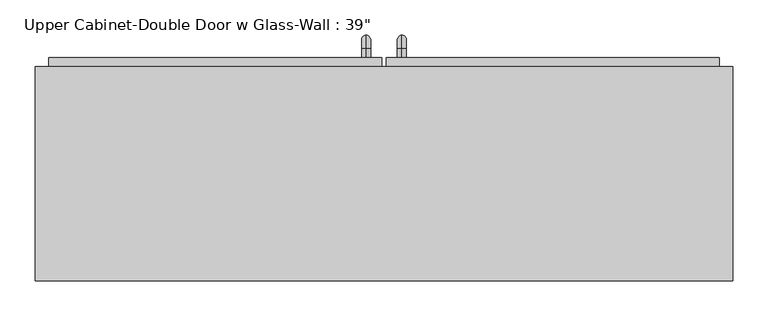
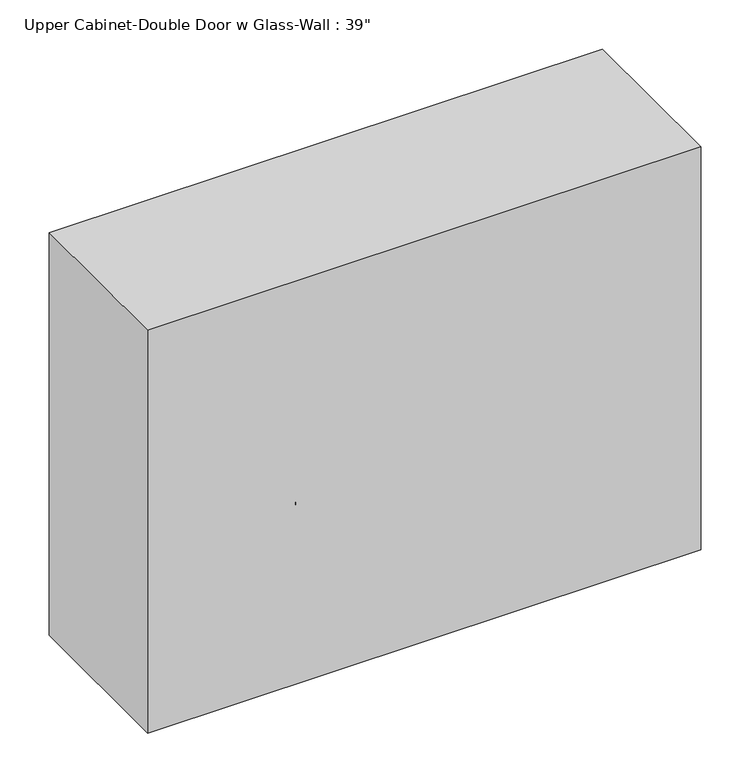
"""IFC4 building model written with IfcOpenShell, lengths in millimetres: furniture geometry."""

from ifc_helpers import new_model, si_unit, point, frame, origin, place, context, project, spatial, polyline, circle_curve, ellipse_curve, trimmed, outline, extrude, faceted_brep, source, transform, mapped, element, save
from ifc_brep_helpers import plane_surface, cylinder_surface, revolved_surface, advanced_brep


def furniture_249aa2ce(model_context):
    return source(origin(), model_context, "Body", "SolidModel", [
        faceted_brep([(-465.5288372, 76.2, 2133.6), (-465.5288372, 76.2, 1371.6), (525.0711628, 76.2, 1371.6), (525.0711628, 76.2, 2133.6), (-465.5288372, 381.0, 2133.6), (525.0711628, 381.0, 2133.6), (525.0711628, 381.0, 1371.6), (-465.5288372, 381.0, 1371.6), (-446.4788372, 381.0, 2114.55), (-446.4788372, 381.0, 1390.65), (506.0211628, 381.0, 1390.65), (506.0211628, 381.0, 2114.55), (506.0211628, 95.25, 2114.55), (-446.4788372, 95.25, 2114.55), (506.0211628, 95.25, 1390.65), (-446.4788372, 95.25, 1390.65)], [[[0, 1, 2, 3]], [[4, 5, 6, 7], [8, 9, 10, 11]], [[1, 0, 4, 7]], [[2, 1, 7, 6]], [[3, 2, 6, 5]], [[0, 3, 5, 4]], [[8, 11, 12, 13]], [[11, 10, 14, 12]], [[10, 9, 15, 14]], [[9, 8, 13, 15]], [[13, 12, 14, 15]]]),
        advanced_brep(
        [(55.1711628, 393.7, 1517.65), (55.1711628, 393.7, 1530.35), (55.1711628, 406.4, 1517.65), (55.1711628, 406.4, 1530.35), (55.1711628, 425.45, 1511.3), (55.1711628, 412.75, 1511.3), (55.1711628, 412.75, 1435.1), (55.1711628, 425.45, 1435.1), (55.1711628, 406.4, 1416.05), (55.1711628, 406.4, 1428.75), (55.1711628, 393.7, 1428.75), (55.1711628, 393.7, 1416.05)],
        [
            (0, 1, circle_curve(frame((55.1711628, 393.7, 1524.0), z_axis=(0.0, -1.0, 0.0), x_axis=(0.0, 0.0, -1.0)), 6.35)),
            (1, 0, circle_curve(frame((55.1711628, 393.7, 1524.0), z_axis=(0.0, -1.0, 0.0), x_axis=(0.0, 0.0, -1.0)), 6.35)),
            (0, 2),
            (2, 3, circle_curve(frame((55.1711628, 406.4, 1524.0), z_axis=(0.0, -1.0, 0.0), x_axis=(0.0, 0.0, -1.0)), 6.35)),
            (3, 1),
            (3, 2, circle_curve(frame((55.1711628, 406.4, 1524.0), z_axis=(0.0, -1.0, 0.0), x_axis=(0.0, 0.0, -1.0)), 6.35)),
            (4, 3, circle_curve(frame((55.1711628, 406.4, 1511.3), z_axis=(1.0, 0.0, 0.0), x_axis=(0.0, 0.0, 1.0)), 19.05)),
            (2, 5, circle_curve(frame((55.1711628, 406.4, 1511.3), z_axis=(-1.0, 0.0, 0.0), x_axis=(0.0, 0.0, 1.0)), 6.35)),
            (5, 4, circle_curve(frame((55.1711628, 419.1, 1511.3), z_axis=(0.0, 0.0, 1.0), x_axis=(0.0, -1.0, 0.0)), 6.35)),
            (4, 5, circle_curve(frame((55.1711628, 419.1, 1511.3), z_axis=(0.0, 0.0, 1.0), x_axis=(0.0, -1.0, 0.0)), 6.35)),
            (5, 6),
            (6, 7, circle_curve(frame((55.1711628, 419.1, 1435.1), z_axis=(0.0, 0.0, 1.0), x_axis=(0.0, -1.0, 0.0)), 6.35)),
            (7, 4),
            (7, 6, circle_curve(frame((55.1711628, 419.1, 1435.1), z_axis=(0.0, 0.0, 1.0), x_axis=(0.0, -1.0, 0.0)), 6.35)),
            (8, 7, circle_curve(frame((55.1711628, 406.4, 1435.1), z_axis=(1.0, 0.0, 0.0), x_axis=(0.0, 1.0, 0.0)), 19.05)),
            (6, 9, circle_curve(frame((55.1711628, 406.4, 1435.1), z_axis=(-1.0, 0.0, 0.0), x_axis=(0.0, 1.0, 0.0)), 6.35)),
            (9, 8, circle_curve(frame((55.1711628, 406.4, 1422.4), z_axis=(0.0, 1.0, 0.0), x_axis=(0.0, 0.0, 1.0)), 6.35)),
            (8, 9, circle_curve(frame((55.1711628, 406.4, 1422.4), z_axis=(0.0, 1.0, 0.0), x_axis=(0.0, 0.0, 1.0)), 6.35)),
            (10, 11, circle_curve(frame((55.1711628, 393.7, 1422.4), z_axis=(0.0, -1.0, 0.0), x_axis=(0.0, 0.0, 1.0)), 6.35)),
            (11, 10, circle_curve(frame((55.1711628, 393.7, 1422.4), z_axis=(0.0, -1.0, 0.0), x_axis=(0.0, 0.0, 1.0)), 6.35)),
            (9, 10),
            (11, 8),
        ],
        [
            plane_surface(frame((48.8211628, 393.7, 1524.0), z_axis=(0.0, -1.0, 0.0), x_axis=(0.0, 0.0, 1.0))),
            cylinder_surface(frame((55.1711628, 393.7, 1524.0), z_axis=(0.0, -1.0, 0.0), x_axis=(0.0, 0.0, -1.0)), 6.35),
            revolved_surface(trimmed(ellipse_curve(frame((55.1711628, 406.4, 1524.0), z_axis=(0.0, -1.0, 0.0), x_axis=(0.0, 0.0, -1.0)), 6.35, 6.35), [point((55.1711628, 406.4, 1517.65))], [point((55.1711628, 406.4, 1530.35))], True, "CARTESIAN"), (55.1711628, 406.4, 1511.3), (-1.0, 0.0, 0.0)),
            revolved_surface(trimmed(ellipse_curve(frame((55.1711628, 406.4, 1524.0), z_axis=(0.0, -1.0, 0.0), x_axis=(0.0, 0.0, -1.0)), 6.35, 6.35), [point((55.1711628, 406.4, 1530.35))], [point((55.1711628, 406.4, 1517.65))], True, "CARTESIAN"), (55.1711628, 406.4, 1511.3), (-1.0, 0.0, 0.0)),
            cylinder_surface(frame((55.1711628, 419.1, 1511.3), z_axis=(0.0, 0.0, 1.0), x_axis=(0.0, -1.0, 0.0)), 6.35),
            revolved_surface(trimmed(ellipse_curve(frame((55.1711628, 419.1, 1435.1), z_axis=(0.0, 0.0, 1.0), x_axis=(0.0, -1.0, 0.0)), 6.35, 6.35), [point((55.1711628, 412.75, 1435.1))], [point((55.1711628, 425.45, 1435.1))], True, "CARTESIAN"), (55.1711628, 406.4, 1435.1), (-1.0, 0.0, 0.0)),
            revolved_surface(trimmed(ellipse_curve(frame((55.1711628, 419.1, 1435.1), z_axis=(0.0, 0.0, 1.0), x_axis=(0.0, -1.0, 0.0)), 6.35, 6.35), [point((55.1711628, 425.45, 1435.1))], [point((55.1711628, 412.75, 1435.1))], True, "CARTESIAN"), (55.1711628, 406.4, 1435.1), (-1.0, 0.0, 0.0)),
            plane_surface(frame((48.8211628, 393.7, 1422.4), z_axis=(0.0, -1.0, 0.0), x_axis=(0.0, 0.0, -1.0))),
            cylinder_surface(frame((55.1711628, 406.4, 1422.4), z_axis=(0.0, 1.0, 0.0), x_axis=(0.0, 0.0, 1.0)), 6.35),
        ],
        [
            (0, [[1, 2]]),
            (1, [[-1, 3, 4, 5]]),
            (1, [[-2, -5, 6, -3]]),
            (2, [[7, -4, 8, 9]]),
            (3, [[-8, -6, -7, 10]]),
            (4, [[-9, 11, 12, 13]]),
            (4, [[-10, -13, 14, -11]]),
            (5, [[15, -12, 16, 17]]),
            (6, [[-16, -14, -15, 18]]),
            (7, [[19, 20]]),
            (8, [[-17, 21, -20, 22]]),
            (8, [[-18, -22, -19, -21]]),
        ],
    ),
        advanced_brep(
        [(4.3711628, 393.7, 1517.65), (4.3711628, 393.7, 1530.35), (4.3711628, 406.4, 1517.65), (4.3711628, 406.4, 1530.35), (4.3711628, 425.45, 1511.3), (4.3711628, 412.75, 1511.3), (4.3711628, 412.75, 1435.1), (4.3711628, 425.45, 1435.1), (4.3711628, 406.4, 1416.05), (4.3711628, 406.4, 1428.75), (4.3711628, 393.7, 1428.75), (4.3711628, 393.7, 1416.05)],
        [
            (0, 1, circle_curve(frame((4.3711628, 393.7, 1524.0), z_axis=(0.0, -1.0, 0.0), x_axis=(0.0, 0.0, 1.0)), 6.35)),
            (1, 0, circle_curve(frame((4.3711628, 393.7, 1524.0), z_axis=(0.0, -1.0, 0.0), x_axis=(0.0, 0.0, 1.0)), 6.35)),
            (0, 2),
            (2, 3, circle_curve(frame((4.3711628, 406.4, 1524.0), z_axis=(0.0, -1.0, 0.0), x_axis=(0.0, 0.0, 1.0)), 6.35)),
            (3, 1),
            (3, 2, circle_curve(frame((4.3711628, 406.4, 1524.0), z_axis=(0.0, -1.0, 0.0), x_axis=(0.0, 0.0, 1.0)), 6.35)),
            (4, 3, circle_curve(frame((4.3711628, 406.4, 1511.3), z_axis=(1.0, 0.0, 0.0), x_axis=(0.0, 0.0, 1.0)), 19.05)),
            (2, 5, circle_curve(frame((4.3711628, 406.4, 1511.3), z_axis=(-1.0, 0.0, 0.0), x_axis=(0.0, 0.0, 1.0)), 6.35)),
            (5, 4, circle_curve(frame((4.3711628, 419.1, 1511.3), z_axis=(0.0, 0.0, 1.0), x_axis=(0.0, 1.0, 0.0)), 6.35)),
            (4, 5, circle_curve(frame((4.3711628, 419.1, 1511.3), z_axis=(0.0, 0.0, 1.0), x_axis=(0.0, 1.0, 0.0)), 6.35)),
            (5, 6),
            (6, 7, circle_curve(frame((4.3711628, 419.1, 1435.1), z_axis=(0.0, 0.0, 1.0), x_axis=(0.0, 1.0, 0.0)), 6.35)),
            (7, 4),
            (7, 6, circle_curve(frame((4.3711628, 419.1, 1435.1), z_axis=(0.0, 0.0, 1.0), x_axis=(0.0, 1.0, 0.0)), 6.35)),
            (8, 7, circle_curve(frame((4.3711628, 406.4, 1435.1), z_axis=(1.0, 0.0, 0.0), x_axis=(0.0, 1.0, 0.0)), 19.05)),
            (6, 9, circle_curve(frame((4.3711628, 406.4, 1435.1), z_axis=(-1.0, 0.0, 0.0), x_axis=(0.0, 1.0, 0.0)), 6.35)),
            (9, 8, circle_curve(frame((4.3711628, 406.4, 1422.4), z_axis=(0.0, 1.0, 0.0), x_axis=(0.0, 0.0, -1.0)), 6.35)),
            (8, 9, circle_curve(frame((4.3711628, 406.4, 1422.4), z_axis=(0.0, 1.0, 0.0), x_axis=(0.0, 0.0, -1.0)), 6.35)),
            (10, 11, circle_curve(frame((4.3711628, 393.7, 1422.4), z_axis=(0.0, -1.0, 0.0), x_axis=(0.0, 0.0, -1.0)), 6.35)),
            (11, 10, circle_curve(frame((4.3711628, 393.7, 1422.4), z_axis=(0.0, -1.0, 0.0), x_axis=(0.0, 0.0, -1.0)), 6.35)),
            (9, 10),
            (11, 8),
        ],
        [
            plane_surface(frame((-1.9788372, 393.7, 1524.0), z_axis=(0.0, -1.0, 0.0), x_axis=(0.0, 0.0, 1.0))),
            cylinder_surface(frame((4.3711628, 393.7, 1524.0), z_axis=(0.0, -1.0, 0.0), x_axis=(0.0, 0.0, 1.0)), 6.35),
            revolved_surface(trimmed(ellipse_curve(frame((4.3711628, 406.4, 1524.0), z_axis=(0.0, -1.0, 0.0), x_axis=(0.0, 0.0, 1.0)), 6.35, 6.35), [point((4.3711628, 406.4, 1517.65))], [point((4.3711628, 406.4, 1530.35))], True, "CARTESIAN"), (4.3711628, 406.4, 1511.3), (-1.0, 0.0, 0.0)),
            revolved_surface(trimmed(ellipse_curve(frame((4.3711628, 406.4, 1524.0), z_axis=(0.0, -1.0, 0.0), x_axis=(0.0, 0.0, 1.0)), 6.35, 6.35), [point((4.3711628, 406.4, 1530.35))], [point((4.3711628, 406.4, 1517.65))], True, "CARTESIAN"), (4.3711628, 406.4, 1511.3), (-1.0, 0.0, 0.0)),
            cylinder_surface(frame((4.3711628, 419.1, 1511.3), z_axis=(0.0, 0.0, 1.0), x_axis=(0.0, 1.0, 0.0)), 6.35),
            revolved_surface(trimmed(ellipse_curve(frame((4.3711628, 419.1, 1435.1), z_axis=(0.0, 0.0, 1.0), x_axis=(0.0, 1.0, 0.0)), 6.35, 6.35), [point((4.3711628, 412.75, 1435.1))], [point((4.3711628, 425.45, 1435.1))], True, "CARTESIAN"), (4.3711628, 406.4, 1435.1), (-1.0, 0.0, 0.0)),
            revolved_surface(trimmed(ellipse_curve(frame((4.3711628, 419.1, 1435.1), z_axis=(0.0, 0.0, 1.0), x_axis=(0.0, 1.0, 0.0)), 6.35, 6.35), [point((4.3711628, 425.45, 1435.1))], [point((4.3711628, 412.75, 1435.1))], True, "CARTESIAN"), (4.3711628, 406.4, 1435.1), (-1.0, 0.0, 0.0)),
            plane_surface(frame((-1.9788372, 393.7, 1422.4), z_axis=(0.0, -1.0, 0.0), x_axis=(0.0, 0.0, -1.0))),
            cylinder_surface(frame((4.3711628, 406.4, 1422.4), z_axis=(0.0, 1.0, 0.0), x_axis=(0.0, 0.0, -1.0)), 6.35),
        ],
        [
            (0, [[1, 2]]),
            (1, [[-1, 3, 4, 5]]),
            (1, [[-2, -5, 6, -3]]),
            (2, [[7, -4, 8, 9]]),
            (3, [[-8, -6, -7, 10]]),
            (4, [[-9, 11, 12, 13]]),
            (4, [[-10, -13, 14, -11]]),
            (5, [[15, -12, 16, 17]]),
            (6, [[-16, -14, -15, 18]]),
            (7, [[19, 20]]),
            (8, [[-17, 21, -20, 22]]),
            (8, [[-18, -22, -19, -21]]),
        ],
    ),
        extrude(outline(polyline([(64.6961628, 374.65), (474.2711628, 374.65), (474.2711628, 368.3), (64.6961628, 368.3), (64.6961628, 374.65)])), frame((0.0, 0.0, 1422.4), z_axis=(0.0, 0.0, 1.0), x_axis=(1.0, 0.0, 0.0)), (0.0, 0.0, 1.0), 660.4),
        extrude(outline(polyline([(-414.7288372, 374.65), (-5.1538372, 374.65), (-5.1538372, 368.3), (-414.7288372, 368.3), (-414.7288372, 374.65)])), frame((0.0, 0.0, 1422.4), z_axis=(0.0, 0.0, 1.0), x_axis=(1.0, 0.0, 0.0)), (0.0, 0.0, 1.0), 660.4),
        extrude(outline(polyline([(2114.55, 32.9461628), (1390.65, 32.9461628), (1390.65, 506.0211628), (2114.55, 506.0211628), (2114.55, 32.9461628)]), holes=[polyline([(1422.4, 64.6961628), (2082.8, 64.6961628), (2082.8, 474.2711628), (1422.4, 474.2711628), (1422.4, 64.6961628)])]), frame((0.0, 361.95, 0.0), z_axis=(0.0, 1.0, 0.0), x_axis=(0.0, 0.0, 1.0)), (0.0, 0.0, 1.0), 31.75),
        extrude(outline(polyline([(1390.65, -446.4788372), (1390.65, 26.5961628), (2114.55, 26.5961628), (2114.55, -446.4788372), (1390.65, -446.4788372)]), holes=[polyline([(2082.8, -5.1538372), (1422.4, -5.1538372), (1422.4, -414.7288372), (2082.8, -414.7288372), (2082.8, -5.1538372)])]), frame((0.0, 361.95, 0.0), z_axis=(0.0, 1.0, 0.0), x_axis=(0.0, 0.0, 1.0)), (0.0, 0.0, 1.0), 31.75),
    ])


if __name__ == "__main__":
    model = new_model("IFC4")
    model_context = context("Model", 3, world=origin())
    ifc_project = project(units=[si_unit("LENGTHUNIT", "METRE", prefix="MILLI")], contexts=[model_context])
    site = spatial("IfcSite", under=ifc_project)
    building = spatial("IfcBuilding", under=site)
    placement = place(None, origin())
    furniture_shape = furniture_249aa2ce(model_context)
    element("IfcFurniture", 1, ObjectType="Upper Cabinet-Double Door w Glass-Wall : 39\"", at=placement, inside=building, context=model_context, shape_type="MappedRepresentation", body=[
        mapped(furniture_shape, transform((0.0, 0.0, 0.0), x_axis=(1.0, 0.0, 0.0), y_axis=(0.0, 1.0, 0.0), z_axis=(0.0, 0.0, 1.0))),
    ])
    save(model, "model.ifc")
